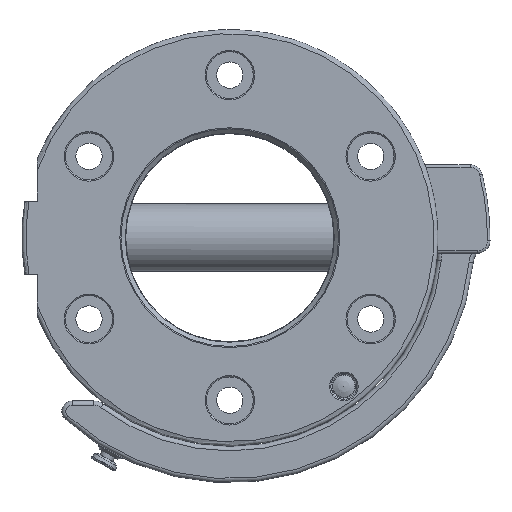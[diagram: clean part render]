
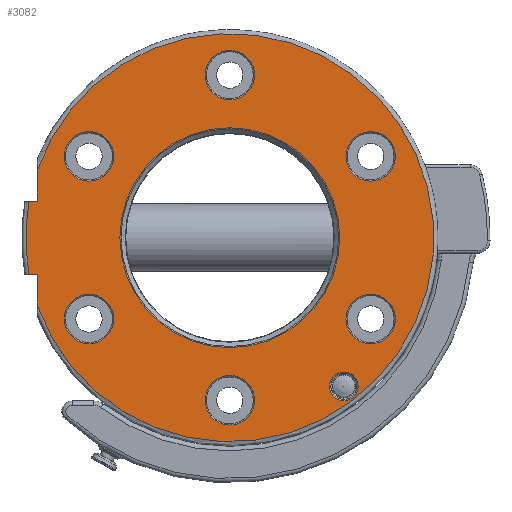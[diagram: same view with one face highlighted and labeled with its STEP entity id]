
A CAD part, front view. The second image highlights one B-rep face of the part: STEP entity #3082.
In plain terms, the highlighted planar face has unit normal (0, -1, 0).
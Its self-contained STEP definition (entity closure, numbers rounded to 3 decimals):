
#74=FACE_BOUND('',#582,.T.);
#75=FACE_BOUND('',#583,.T.);
#76=FACE_BOUND('',#584,.T.);
#77=FACE_BOUND('',#585,.T.);
#78=FACE_BOUND('',#586,.T.);
#79=FACE_BOUND('',#587,.T.);
#80=FACE_BOUND('',#588,.T.);
#81=FACE_BOUND('',#589,.T.);
#103=PLANE('',#3350);
#387=FACE_OUTER_BOUND('',#581,.T.);
#581=EDGE_LOOP('',(#2294,#2295,#2296,#2297,#2298,#2299));
#582=EDGE_LOOP('',(#2300));
#583=EDGE_LOOP('',(#2301));
#584=EDGE_LOOP('',(#2302));
#585=EDGE_LOOP('',(#2303,#2304));
#586=EDGE_LOOP('',(#2305));
#587=EDGE_LOOP('',(#2306));
#588=EDGE_LOOP('',(#2307));
#589=EDGE_LOOP('',(#2308));
#788=LINE('',#5051,#927);
#789=LINE('',#5055,#928);
#790=LINE('',#5057,#929);
#791=LINE('',#5060,#930);
#927=VECTOR('',#3952,10.);
#928=VECTOR('',#3955,10.);
#929=VECTOR('',#3956,10.);
#930=VECTOR('',#3959,10.);
#1096=CIRCLE('',#3348,9.5);
#1098=CIRCLE('',#3351,78.4);
#1099=CIRCLE('',#3352,78.4);
#1100=CIRCLE('',#3353,9.5);
#1101=CIRCLE('',#3354,9.5);
#1102=CIRCLE('',#3355,9.5);
#1103=CIRCLE('',#3356,42.249);
#1104=CIRCLE('',#3357,42.249);
#1105=CIRCLE('',#3358,5.5);
#1106=CIRCLE('',#3359,9.5);
#1107=CIRCLE('',#3360,9.5);
#1429=VERTEX_POINT('',#5044);
#1430=VERTEX_POINT('',#5049);
#1431=VERTEX_POINT('',#5050);
#1432=VERTEX_POINT('',#5052);
#1433=VERTEX_POINT('',#5054);
#1434=VERTEX_POINT('',#5056);
#1435=VERTEX_POINT('',#5058);
#1436=VERTEX_POINT('',#5061);
#1437=VERTEX_POINT('',#5063);
#1438=VERTEX_POINT('',#5065);
#1439=VERTEX_POINT('',#5067);
#1440=VERTEX_POINT('',#5068);
#1441=VERTEX_POINT('',#5071);
#1442=VERTEX_POINT('',#5073);
#1443=VERTEX_POINT('',#5075);
#1759=EDGE_CURVE('',#1429,#1429,#1096,.T.);
#1761=EDGE_CURVE('',#1430,#1431,#788,.T.);
#1762=EDGE_CURVE('',#1432,#1431,#1098,.T.);
#1763=EDGE_CURVE('',#1432,#1433,#789,.T.);
#1764=EDGE_CURVE('',#1433,#1434,#790,.T.);
#1765=EDGE_CURVE('',#1435,#1434,#1099,.T.);
#1766=EDGE_CURVE('',#1435,#1430,#791,.T.);
#1767=EDGE_CURVE('',#1436,#1436,#1100,.T.);
#1768=EDGE_CURVE('',#1437,#1437,#1101,.T.);
#1769=EDGE_CURVE('',#1438,#1438,#1102,.T.);
#1770=EDGE_CURVE('',#1439,#1440,#1103,.T.);
#1771=EDGE_CURVE('',#1440,#1439,#1104,.T.);
#1772=EDGE_CURVE('',#1441,#1441,#1105,.T.);
#1773=EDGE_CURVE('',#1442,#1442,#1106,.T.);
#1774=EDGE_CURVE('',#1443,#1443,#1107,.T.);
#2294=ORIENTED_EDGE('',*,*,#1761,.T.);
#2295=ORIENTED_EDGE('',*,*,#1762,.F.);
#2296=ORIENTED_EDGE('',*,*,#1763,.T.);
#2297=ORIENTED_EDGE('',*,*,#1764,.T.);
#2298=ORIENTED_EDGE('',*,*,#1765,.F.);
#2299=ORIENTED_EDGE('',*,*,#1766,.T.);
#2300=ORIENTED_EDGE('',*,*,#1767,.F.);
#2301=ORIENTED_EDGE('',*,*,#1768,.F.);
#2302=ORIENTED_EDGE('',*,*,#1769,.F.);
#2303=ORIENTED_EDGE('',*,*,#1770,.F.);
#2304=ORIENTED_EDGE('',*,*,#1771,.F.);
#2305=ORIENTED_EDGE('',*,*,#1772,.F.);
#2306=ORIENTED_EDGE('',*,*,#1773,.F.);
#2307=ORIENTED_EDGE('',*,*,#1774,.F.);
#2308=ORIENTED_EDGE('',*,*,#1759,.F.);
#3082=ADVANCED_FACE('',(#387,#74,#75,#76,#77,#78,#79,#80,#81),#103,.T.);
#3348=AXIS2_PLACEMENT_3D('',#5046,#3946,#3947);
#3350=AXIS2_PLACEMENT_3D('',#5048,#3950,#3951);
#3351=AXIS2_PLACEMENT_3D('',#5053,#3953,#3954);
#3352=AXIS2_PLACEMENT_3D('',#5059,#3957,#3958);
#3353=AXIS2_PLACEMENT_3D('',#5062,#3960,#3961);
#3354=AXIS2_PLACEMENT_3D('',#5064,#3962,#3963);
#3355=AXIS2_PLACEMENT_3D('',#5066,#3964,#3965);
#3356=AXIS2_PLACEMENT_3D('',#5069,#3966,#3967);
#3357=AXIS2_PLACEMENT_3D('',#5070,#3968,#3969);
#3358=AXIS2_PLACEMENT_3D('',#5072,#3970,#3971);
#3359=AXIS2_PLACEMENT_3D('',#5074,#3972,#3973);
#3360=AXIS2_PLACEMENT_3D('',#5076,#3974,#3975);
#3946=DIRECTION('center_axis',(0.,-1.,0.));
#3947=DIRECTION('ref_axis',(-1.,0.,0.));
#3950=DIRECTION('center_axis',(0.,-1.,0.));
#3951=DIRECTION('ref_axis',(0.,0.,-1.));
#3952=DIRECTION('',(0.,0.,-1.));
#3953=DIRECTION('center_axis',(0.,1.,0.));
#3954=DIRECTION('ref_axis',(1.,0.,0.));
#3955=DIRECTION('',(0.,0.,-1.));
#3956=DIRECTION('',(-1.,0.,0.));
#3957=DIRECTION('center_axis',(0.,1.,0.));
#3958=DIRECTION('ref_axis',(1.,0.,0.));
#3959=DIRECTION('',(1.,0.,0.));
#3960=DIRECTION('center_axis',(0.,-1.,0.));
#3961=DIRECTION('ref_axis',(-1.,0.,0.));
#3962=DIRECTION('center_axis',(0.,-1.,0.));
#3963=DIRECTION('ref_axis',(-1.,0.,0.));
#3964=DIRECTION('center_axis',(0.,-1.,0.));
#3965=DIRECTION('ref_axis',(-1.,0.,0.));
#3966=DIRECTION('center_axis',(0.,-1.,0.));
#3967=DIRECTION('ref_axis',(1.,0.,0.));
#3968=DIRECTION('center_axis',(0.,-1.,0.));
#3969=DIRECTION('ref_axis',(1.,0.,0.));
#3970=DIRECTION('center_axis',(0.,-1.,0.));
#3971=DIRECTION('ref_axis',(-1.,0.,0.));
#3972=DIRECTION('center_axis',(0.,-1.,0.));
#3973=DIRECTION('ref_axis',(-1.,0.,0.));
#3974=DIRECTION('center_axis',(0.,-1.,0.));
#3975=DIRECTION('ref_axis',(-1.,0.,0.));
#5044=CARTESIAN_POINT('',(76.237,-27.231,-31.25));
#5046=CARTESIAN_POINT('Origin',(66.737,-27.231,-31.25));
#5048=CARTESIAN_POINT('Origin',(-47.39,-27.231,0.));
#5049=CARTESIAN_POINT('',(-61.39,-27.231,-14.));
#5050=CARTESIAN_POINT('',(-61.39,-27.231,-25.895));
#5051=CARTESIAN_POINT('',(-61.39,-27.231,-7.));
#5052=CARTESIAN_POINT('',(-61.39,-27.231,25.895));
#5053=CARTESIAN_POINT('Origin',(12.61,-27.231,0.));
#5054=CARTESIAN_POINT('',(-61.39,-27.231,14.));
#5055=CARTESIAN_POINT('',(-61.39,-27.231,15.199));
#5056=CARTESIAN_POINT('',(-64.529,-27.231,14.));
#5057=CARTESIAN_POINT('',(-54.39,-27.231,14.));
#5058=CARTESIAN_POINT('',(-64.529,-27.231,-14.));
#5059=CARTESIAN_POINT('Origin',(12.61,-27.231,0.));
#5060=CARTESIAN_POINT('',(-56.772,-27.231,-14.));
#5061=CARTESIAN_POINT('',(76.237,-27.231,31.25));
#5062=CARTESIAN_POINT('Origin',(66.737,-27.231,31.25));
#5063=CARTESIAN_POINT('',(-32.016,-27.231,31.25));
#5064=CARTESIAN_POINT('Origin',(-41.516,-27.231,31.25));
#5065=CARTESIAN_POINT('',(-32.016,-27.231,-31.25));
#5066=CARTESIAN_POINT('Origin',(-41.516,-27.231,-31.25));
#5067=CARTESIAN_POINT('',(-29.638,-27.231,0.));
#5068=CARTESIAN_POINT('',(12.61,-27.231,42.249));
#5069=CARTESIAN_POINT('Origin',(12.61,-27.231,0.));
#5070=CARTESIAN_POINT('Origin',(12.61,-27.231,0.));
#5071=CARTESIAN_POINT('',(61.941,-27.231,-57.121));
#5072=CARTESIAN_POINT('Origin',(56.441,-27.231,-57.121));
#5073=CARTESIAN_POINT('',(22.11,-27.231,-62.5));
#5074=CARTESIAN_POINT('Origin',(12.61,-27.231,-62.5));
#5075=CARTESIAN_POINT('',(22.11,-27.231,62.5));
#5076=CARTESIAN_POINT('Origin',(12.61,-27.231,62.5));
